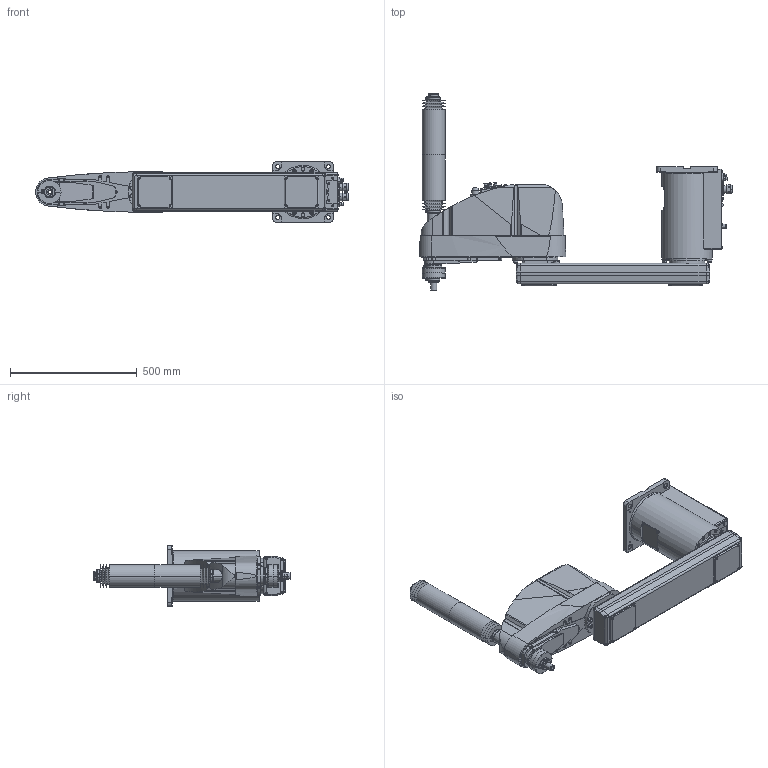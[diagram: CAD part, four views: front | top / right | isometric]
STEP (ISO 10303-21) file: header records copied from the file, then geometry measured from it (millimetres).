
FILE_DESCRIPTION( ( '' ), '1' );
FILE_NAME( '//expscmdclustefs.cadenas.external/client_exchange/iodir/jobs/output/wkb51490316_no0/STEP/G20_A04CR_2_14b.stp', '2012-11-22T08:55:30', ( '' ), ( '' ), ' ', ' ', ' ' );
FILE_SCHEMA( ( 'automotive_design' ) );
Length unit declared in the file: millimetre
Products named in the file (8): 1; 2; 3; 4; 5; 6; 7; 8
Bounding box: 1234.5 x 774 x 240 mm (x, y, z)
Volume: 45087561.7 mm3; surface area: 1801255 mm2
Topology: 8 solids, 9 shells, 2015 faces, 4893 edges, 3169 vertices
Faces by surface type: plane 1088, cylinder 655, cone 242, torus 29, sphere 1
Entity records: 117503 total; most frequent: CARTESIAN_POINT 12348, DIRECTION 10454, STYLED_ITEM 10077, PRESENTATION_STYLE_ASSIGNMENT 10077, COLOUR_RGB 10077, ORIENTED_EDGE 9770, EDGE_CURVE 4885, CURVE_STYLE 4885
